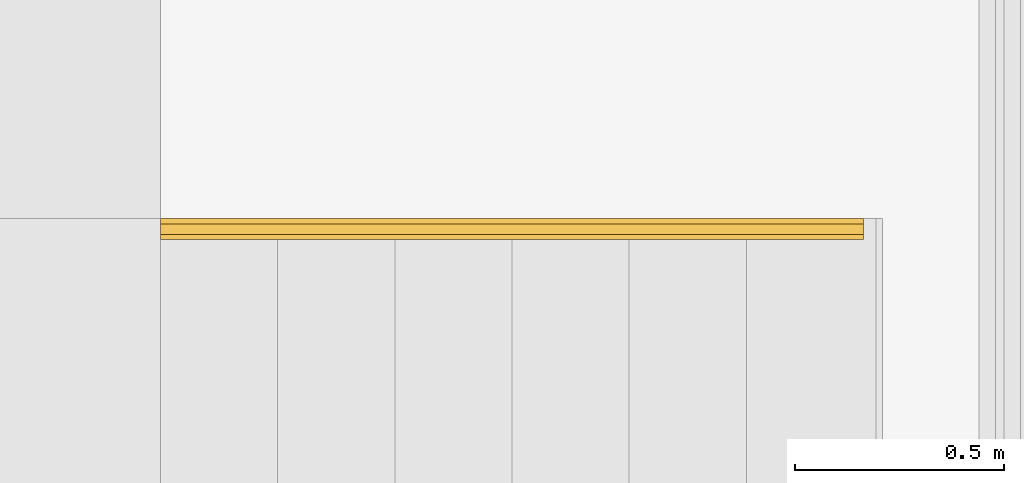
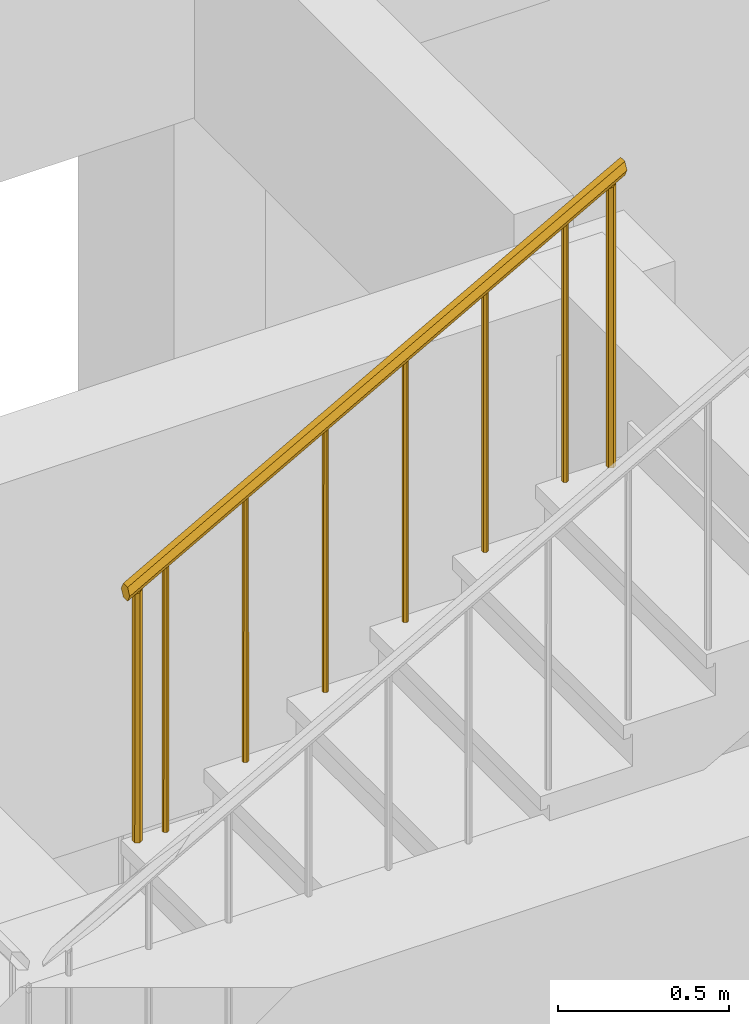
# One storey, part 112 of 117: 1 railing, 1 element without a shape of its own.
"""IFC4 building model written with IfcOpenShell, lengths in metres."""

from ifc_helpers import new_model, entity, si_unit, converted_unit, derived_unit, direction, frame, origin, place, context, subcontext, project, spatial, polygons, material, type_object, element, aggregate, save


model = new_model("IFC4")

# Units and contexts
model_context = context("Model", 3, precision=1e-05, world=origin(), true_north=direction((6.123031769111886e-17, 1.0)))
body_context = subcontext(model_context, "Body", "Model", "MODEL_VIEW")
ifc_project = project(units=[si_unit("LENGTHUNIT", "METRE"), si_unit("AREAUNIT", "SQUARE_METRE"), si_unit("VOLUMEUNIT", "CUBIC_METRE"), converted_unit("PLANEANGLEUNIT", "DEGREE", entity("IfcRatioMeasure", 0.017453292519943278), si_unit("PLANEANGLEUNIT", "RADIAN"), dimensions=[0, 0, 0, 0, 0, 0, 0]), si_unit("MASSUNIT", "GRAM", prefix="KILO"), derived_unit("MASSDENSITYUNIT", [(si_unit("MASSUNIT", "GRAM", prefix="KILO"), 1), (si_unit("LENGTHUNIT", "METRE"), -3)]), derived_unit("MOMENTOFINERTIAUNIT", [(si_unit("LENGTHUNIT", "METRE"), 4)]), si_unit("TIMEUNIT", "SECOND"), si_unit("FREQUENCYUNIT", "HERTZ"), si_unit("THERMODYNAMICTEMPERATUREUNIT", "DEGREE_CELSIUS"), derived_unit("THERMALTRANSMITTANCEUNIT", [(si_unit("MASSUNIT", "GRAM", prefix="KILO"), 1), (si_unit("THERMODYNAMICTEMPERATUREUNIT", "KELVIN"), -1), (si_unit("TIMEUNIT", "SECOND"), -3)]), derived_unit("VOLUMETRICFLOWRATEUNIT", [(si_unit("LENGTHUNIT", "METRE"), 3), (si_unit("TIMEUNIT", "SECOND"), -1)]), derived_unit("MASSFLOWRATEUNIT", [(si_unit("MASSUNIT", "GRAM", prefix="KILO"), 1), (si_unit("TIMEUNIT", "SECOND"), -1)]), derived_unit("ROTATIONALFREQUENCYUNIT", [(si_unit("TIMEUNIT", "SECOND"), -1)]), si_unit("ELECTRICCURRENTUNIT", "AMPERE"), si_unit("ELECTRICVOLTAGEUNIT", "VOLT"), si_unit("POWERUNIT", "WATT"), si_unit("FORCEUNIT", "NEWTON", prefix="KILO"), si_unit("ILLUMINANCEUNIT", "LUX"), si_unit("LUMINOUSFLUXUNIT", "LUMEN"), si_unit("LUMINOUSINTENSITYUNIT", "CANDELA"), derived_unit("USERDEFINED", [(si_unit("MASSUNIT", "GRAM", prefix="KILO"), -1), (si_unit("LENGTHUNIT", "METRE"), -2), (si_unit("TIMEUNIT", "SECOND"), 3), (si_unit("LUMINOUSFLUXUNIT", "LUMEN"), 1)]), derived_unit("SOUNDPOWERUNIT", [(si_unit("MASSUNIT", "GRAM", prefix="KILO"), 1), (si_unit("LENGTHUNIT", "METRE"), 2), (si_unit("TIMEUNIT", "SECOND"), -3)]), derived_unit("SOUNDPRESSUREUNIT", [(si_unit("MASSUNIT", "GRAM", prefix="KILO"), 1), (si_unit("LENGTHUNIT", "METRE"), -1), (si_unit("TIMEUNIT", "SECOND"), -2)]), derived_unit("LINEARVELOCITYUNIT", [(si_unit("LENGTHUNIT", "METRE"), 1), (si_unit("TIMEUNIT", "SECOND"), -1)]), si_unit("PRESSUREUNIT", "PASCAL"), derived_unit("USERDEFINED", [(si_unit("LENGTHUNIT", "METRE"), -2), (si_unit("MASSUNIT", "GRAM", prefix="KILO"), 1), (si_unit("TIMEUNIT", "SECOND"), -2)]), derived_unit("LINEARFORCEUNIT", [(si_unit("MASSUNIT", "GRAM", prefix="KILO"), 1), (si_unit("LENGTHUNIT", "METRE"), 1), (si_unit("TIMEUNIT", "SECOND"), -2), (si_unit("LENGTHUNIT", "METRE"), -1)]), derived_unit("PLANARFORCEUNIT", [(si_unit("MASSUNIT", "GRAM", prefix="KILO"), 1), (si_unit("LENGTHUNIT", "METRE"), 1), (si_unit("TIMEUNIT", "SECOND"), -2), (si_unit("LENGTHUNIT", "METRE"), -2)])], contexts=[model_context])

# Site, building, storey
site_placement = place(None, origin())
site = spatial("IfcSite", under=ifc_project, at=site_placement, Name="Superficie", CompositionType="ELEMENT")
building_placement = place(site_placement, origin())
building = spatial("IfcBuilding", under=site, at=building_placement, CompositionType="ELEMENT")
storey_placement = place(building_placement, origin())
storey = spatial("IfcBuildingStorey", under=building, at=storey_placement, Name="Nivel 0", CompositionType="ELEMENT", Elevation=0.0)

# Stair, railing
stair_type = type_object("IfcStairType", Name="Escalera prefabricada:Escalera prefabricada", PredefinedType="NOTDEFINED")
stair_placement = place(storey_placement, origin())
stair = element("IfcStair", 1, at=stair_placement, inside=storey, type_object=stair_type, Name="Escalera prefabricada:Escalera", ObjectType="Escalera prefabricada:Escalera prefabricada", PredefinedType="NOTDEFINED")
ifc_material = material(Name="Acero", Category="Metal")
railing_placement = place(stair_placement, frame((-5.398998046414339, 11.67883401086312, 3.066666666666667)))
railing = element("IfcRailing", 2, at=railing_placement, material=ifc_material, Name="Barandilla:Barrotes redondos", ObjectType="Barandilla:Barrotes redondos", PredefinedType="NOTDEFINED", context=body_context, shape_type="Tessellation", body=[
    polygons([(1.4850000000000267, 0.01659527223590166, 1.696401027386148), (1.4850000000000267, 0.01659527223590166, 0.7777777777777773), (1.4936602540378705, 0.021595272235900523, 0.7777777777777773), (1.4936602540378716, 0.03159527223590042, 0.7777777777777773), (1.4850000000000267, 0.03659527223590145, 0.7777777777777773), (1.4850000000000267, 0.03659527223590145, 1.696401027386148), (1.4932298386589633, 0.032275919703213, 1.7009731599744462), (1.4932298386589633, 0.0209146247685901, 1.7009731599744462), (1.476339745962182, 0.03159527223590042, 0.7777777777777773), (1.4763397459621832, 0.021595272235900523, 0.7777777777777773), (1.4767701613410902, 0.0209146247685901, 1.6918288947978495), (1.4767701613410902, 0.032275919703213, 1.6918288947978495)], [[[7, 4, 5]], [[5, 6, 7]], [[7, 8, 3, 4]], [[8, 2, 3]], [[2, 8, 1]], [[11, 10, 2]], [[2, 1, 11]], [[11, 12, 9, 10]], [[12, 5, 9]], [[5, 12, 6]], [[11, 1, 8, 7, 6, 12]], [[3, 2, 10, 9, 5, 4]]], closed=True),
    polygons([(1.2150000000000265, 0.016595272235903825, 1.5464010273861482), (1.2150000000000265, 0.016595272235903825, 0.6222222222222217), (1.2236602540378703, 0.021595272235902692, 0.6222222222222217), (1.2236602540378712, 0.03159527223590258, 0.6222222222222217), (1.2150000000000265, 0.036595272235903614, 0.6222222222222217), (1.2150000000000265, 0.036595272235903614, 1.5464010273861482), (1.223229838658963, 0.032275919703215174, 1.5509731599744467), (1.223229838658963, 0.02091462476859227, 1.5509731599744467), (1.2063397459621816, 0.03159527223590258, 0.6222222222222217), (1.2063397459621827, 0.021595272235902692, 0.6222222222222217), (1.20677016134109, 0.02091462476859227, 1.54182889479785), (1.20677016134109, 0.032275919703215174, 1.54182889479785)], [[[7, 4, 5]], [[5, 6, 7]], [[7, 8, 3, 4]], [[8, 2, 3]], [[2, 8, 1]], [[11, 10, 2]], [[2, 1, 11]], [[11, 12, 9, 10]], [[12, 5, 9]], [[5, 12, 6]], [[11, 1, 8, 7, 6, 12]], [[3, 2, 10, 9, 5, 4]]], closed=True),
    polygons([(0.9450000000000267, 0.016595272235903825, 1.396401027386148), (0.9450000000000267, 0.016595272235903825, 0.4666666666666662), (0.9536602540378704, 0.021595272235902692, 0.4666666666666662), (0.9536602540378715, 0.03159527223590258, 0.4666666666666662), (0.9450000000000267, 0.036595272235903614, 0.4666666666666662), (0.9450000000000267, 0.036595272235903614, 1.396401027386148), (0.9532298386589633, 0.032275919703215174, 1.4009731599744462), (0.9532298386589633, 0.02091462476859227, 1.4009731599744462), (0.9363397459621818, 0.03159527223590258, 0.4666666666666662), (0.936339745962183, 0.021595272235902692, 0.4666666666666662), (0.93677016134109, 0.02091462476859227, 1.3918288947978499), (0.93677016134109, 0.032275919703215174, 1.3918288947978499)], [[[7, 4, 5]], [[5, 6, 7]], [[7, 8, 3, 4]], [[8, 2, 3]], [[2, 8, 1]], [[11, 10, 2]], [[2, 1, 11]], [[11, 12, 9, 10]], [[12, 5, 9]], [[5, 12, 6]], [[11, 1, 8, 7, 6, 12]], [[3, 2, 10, 9, 5, 4]]], closed=True),
    polygons([(0.6750000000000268, 0.016595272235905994, 1.2464010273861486), (0.6750000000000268, 0.016595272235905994, 0.3111111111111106), (0.6836602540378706, 0.021595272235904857, 0.3111111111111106), (0.6836602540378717, 0.03159527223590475, 0.3111111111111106), (0.6750000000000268, 0.03659527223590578, 0.3111111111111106), (0.6750000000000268, 0.03659527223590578, 1.2464010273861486), (0.6832298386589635, 0.03227591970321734, 1.2509731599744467), (0.6832298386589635, 0.020914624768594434, 1.2509731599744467), (0.666339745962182, 0.03159527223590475, 0.3111111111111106), (0.6663397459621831, 0.021595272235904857, 0.3111111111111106), (0.6667701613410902, 0.020914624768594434, 1.2418288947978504), (0.6667701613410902, 0.03227591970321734, 1.2418288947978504)], [[[7, 4, 5]], [[5, 6, 7]], [[7, 8, 3, 4]], [[8, 2, 3]], [[2, 8, 1]], [[11, 10, 2]], [[2, 1, 11]], [[11, 12, 9, 10]], [[12, 5, 9]], [[5, 12, 6]], [[11, 1, 8, 7, 6, 12]], [[3, 2, 10, 9, 5, 4]]], closed=True),
    polygons([(0.40500000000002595, 0.016595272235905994, 1.0964010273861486), (0.40500000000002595, 0.016595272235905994, 0.15555555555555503), (0.4136602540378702, 0.021595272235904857, 0.15555555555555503), (0.4136602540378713, 0.03159527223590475, 0.15555555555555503), (0.40500000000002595, 0.03659527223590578, 0.15555555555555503), (0.40500000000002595, 0.03659527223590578, 1.0964010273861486), (0.41322983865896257, 0.03227591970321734, 1.1009731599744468), (0.41322983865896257, 0.020914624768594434, 1.1009731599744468), (0.39633974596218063, 0.03159527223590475, 0.15555555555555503), (0.39633974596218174, 0.021595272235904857, 0.15555555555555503), (0.3967701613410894, 0.020914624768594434, 1.091828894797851), (0.3967701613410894, 0.03227591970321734, 1.091828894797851)], [[[7, 4, 5]], [[5, 6, 7]], [[7, 8, 3, 4]], [[8, 2, 3]], [[2, 8, 1]], [[11, 10, 2]], [[2, 1, 11]], [[11, 12, 9, 10]], [[12, 5, 9]], [[5, 12, 6]], [[11, 1, 8, 7, 6, 12]], [[3, 2, 10, 9, 5, 4]]], closed=True),
    polygons([(0.13500000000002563, 0.01659527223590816, 0.9464010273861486), (0.13500000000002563, 0.01659527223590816, 0.0), (0.14366025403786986, 0.021595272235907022, 0.0), (0.14366025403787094, 0.03159527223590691, 0.0), (0.13500000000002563, 0.036595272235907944, 0.0), (0.13500000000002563, 0.036595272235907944, 0.9464010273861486), (0.14322983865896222, 0.032275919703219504, 0.9509731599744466), (0.14322983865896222, 0.0209146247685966, 0.9509731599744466), (0.12633974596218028, 0.03159527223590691, 0.0), (0.12633974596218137, 0.021595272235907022, 0.0), (0.12677016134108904, 0.0209146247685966, 0.941828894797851), (0.12677016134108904, 0.032275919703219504, 0.941828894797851)], [[[7, 4, 5]], [[5, 6, 7]], [[7, 8, 3, 4]], [[8, 2, 3]], [[2, 8, 1]], [[11, 10, 2]], [[2, 1, 11]], [[11, 12, 9, 10]], [[12, 5, 9]], [[5, 12, 6]], [[11, 1, 8, 7, 6, 12]], [[3, 2, 10, 9, 5, 4]]], closed=True),
    polygons([(1.6400000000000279, 0.011595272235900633, 1.7825121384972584), (1.6400000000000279, 0.011595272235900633, 0.7777777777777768), (1.6529903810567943, 0.019095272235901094, 0.7777777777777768), (1.6529903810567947, 0.03409527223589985, 0.7777777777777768), (1.6400000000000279, 0.041595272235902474, 0.7777777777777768), (1.6400000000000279, 0.041595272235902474, 1.7825121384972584), (1.6523447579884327, 0.03511624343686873, 1.7893703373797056), (1.6523447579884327, 0.018074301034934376, 1.7893703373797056), (1.6529903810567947, 0.026595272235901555, 0.7777777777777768), (1.6523447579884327, 0.026595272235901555, 1.7893703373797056), (1.6523447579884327, 0.030855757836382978, 1.789370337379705), (1.6464951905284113, 0.03784527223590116, 0.7777777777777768), (1.6461723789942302, 0.038355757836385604, 1.785941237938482), (1.6423802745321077, 0.04034600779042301, 1.7838345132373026), (1.6464951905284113, 0.015345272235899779, 0.7777777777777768), (1.6461723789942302, 0.014834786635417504, 1.785941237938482), (1.6492585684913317, 0.01645454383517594, 1.787655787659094), (1.6523447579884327, 0.022334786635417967, 1.7893703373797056), (1.6529903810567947, 0.02284527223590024, 0.7777777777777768), (1.6423802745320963, 0.012844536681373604, 1.7838345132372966), (1.6432475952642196, 0.013470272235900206, 0.7777777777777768), (1.6492585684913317, 0.036736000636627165, 1.7876557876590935), (1.6497427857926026, 0.03597027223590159, 0.7777777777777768), (1.6529903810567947, 0.0303452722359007, 0.7777777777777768), (1.6432475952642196, 0.03972027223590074, 0.7777777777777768), (1.6497427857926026, 0.01722027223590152, 0.7777777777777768), (1.627009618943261, 0.03409527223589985, 0.7777777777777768), (1.6270096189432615, 0.019095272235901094, 0.7777777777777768), (1.627655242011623, 0.018074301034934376, 1.7756539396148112), (1.627655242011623, 0.03511624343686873, 1.7756539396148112), (1.627009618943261, 0.026595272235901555, 0.7777777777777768), (1.627655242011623, 0.026595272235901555, 1.7756539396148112), (1.627655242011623, 0.022334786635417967, 1.7756539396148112), (1.6335048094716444, 0.015345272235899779, 0.7777777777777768), (1.6338276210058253, 0.014834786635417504, 1.7790830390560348), (1.6375999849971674, 0.012854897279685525, 1.7811787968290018), (1.6335048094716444, 0.03784527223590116, 0.7777777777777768), (1.6338276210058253, 0.038355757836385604, 1.7790830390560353), (1.6307414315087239, 0.03673600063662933, 1.7773684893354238), (1.627655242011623, 0.030855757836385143, 1.7756539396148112), (1.627009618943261, 0.0303452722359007, 0.7777777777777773), (1.637599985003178, 0.04033564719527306, 1.7811787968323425), (1.6367524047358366, 0.03972027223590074, 0.7777777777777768), (1.6302572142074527, 0.01722027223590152, 0.7777777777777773), (1.6307414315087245, 0.01645454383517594, 1.7773684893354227), (1.6270096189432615, 0.022845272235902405, 0.7777777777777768), (1.6367524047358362, 0.013470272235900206, 0.7777777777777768), (1.6302572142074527, 0.03597027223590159, 0.7777777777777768)], [[[25, 13, 12]], [[18, 8, 3, 19, 9, 24, 4, 7, 11, 10]], [[25, 14, 13]], [[4, 23, 7]], [[21, 15, 16]], [[14, 5, 6]], [[17, 26, 8]], [[20, 2, 21]], [[23, 12, 22]], [[17, 16, 15]], [[20, 1, 2]], [[20, 21, 16]], [[22, 7, 23]], [[12, 13, 22]], [[25, 5, 14]], [[3, 8, 26]], [[17, 15, 26]], [[47, 35, 34]], [[29, 33, 32, 40, 30, 27, 41, 31, 46, 28]], [[45, 29, 44]], [[42, 5, 43]], [[43, 37, 38]], [[47, 36, 35]], [[36, 2, 1]], [[39, 48, 30]], [[35, 45, 34]], [[39, 38, 37]], [[42, 6, 5]], [[42, 43, 38]], [[44, 34, 45]], [[29, 28, 44]], [[47, 2, 36]], [[27, 30, 48]], [[39, 37, 48]], [[1, 20, 16, 17, 8, 18, 10, 11, 7, 22, 13, 14, 6, 42, 38, 39, 30, 40, 32, 33, 29, 45, 35, 36]], [[5, 25, 12, 23, 4, 24, 9, 19, 3, 26, 15, 21, 2, 47, 34, 44, 28, 46, 31, 41, 27, 48, 37, 43]]], closed=True),
    polygons([(0.04000000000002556, 0.011595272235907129, 0.8936232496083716), (0.04000000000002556, 0.011595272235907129, 0.0), (0.05299038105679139, 0.01909527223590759, 0.0), (0.05299038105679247, 0.034095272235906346, 0.0), (0.04000000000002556, 0.041595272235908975, 0.0), (0.04000000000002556, 0.041595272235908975, 0.8936232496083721), (0.05234475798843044, 0.03511624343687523, 0.9004814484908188), (0.05234475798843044, 0.018074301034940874, 0.9004814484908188), (0.05299038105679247, 0.026595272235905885, 0.0), (0.05234475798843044, 0.02659527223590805, 0.9004814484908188), (0.05234475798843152, 0.03085575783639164, 0.9004814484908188), (0.04649519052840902, 0.03784527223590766, 0.0), (0.04617237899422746, 0.0383557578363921, 0.8970523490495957), (0.042673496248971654, 0.04019211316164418, 0.8951085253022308), (0.04649519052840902, 0.015345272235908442, 0.0), (0.04617237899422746, 0.014834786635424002, 0.8970523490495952), (0.04925856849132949, 0.01645454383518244, 0.8987668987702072), (0.05234475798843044, 0.022334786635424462, 0.9004814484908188), (0.05299038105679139, 0.02284527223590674, 0.0), (0.04267349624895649, 0.012998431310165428, 0.8951085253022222), (0.04324759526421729, 0.013470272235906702, 0.0), (0.04925856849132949, 0.03673600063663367, 0.8987668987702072), (0.04974278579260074, 0.03597027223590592, 0.0), (0.05299038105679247, 0.0303452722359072, 0.0), (0.04324759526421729, 0.03972027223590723, 0.0), (0.04974278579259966, 0.017220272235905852, 0.0), (0.027009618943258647, 0.034095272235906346, 0.0), (0.02700961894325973, 0.01909527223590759, 0.0), (0.02765524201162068, 0.018074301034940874, 0.8867650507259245), (0.02765524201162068, 0.03511624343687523, 0.8867650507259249), (0.027009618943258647, 0.026595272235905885, 0.0), (0.02765524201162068, 0.02659527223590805, 0.8867650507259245), (0.02765524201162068, 0.022334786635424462, 0.8867650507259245), (0.033504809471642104, 0.015345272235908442, 0.0), (0.03382762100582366, 0.014834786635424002, 0.890194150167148), (0.03730157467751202, 0.013011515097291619, 0.8921241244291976), (0.033504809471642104, 0.03784527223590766, 0.0), (0.03382762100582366, 0.0383557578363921, 0.8901941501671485), (0.030741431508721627, 0.03673600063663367, 0.8884796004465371), (0.02765524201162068, 0.03085575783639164, 0.8867650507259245), (0.027009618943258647, 0.0303452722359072, 0.0), (0.037301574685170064, 0.04017902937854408, 0.8921241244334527), (0.036752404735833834, 0.03972027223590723, 0.0), (0.030257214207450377, 0.017220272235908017, 0.0), (0.030741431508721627, 0.01645454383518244, 0.888479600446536), (0.027009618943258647, 0.02284527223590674, 0.0), (0.036752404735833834, 0.013470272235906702, 0.0), (0.030257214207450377, 0.03597027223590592, 0.0)], [[[25, 13, 12]], [[18, 8, 3, 19, 9, 24, 4, 7, 11, 10]], [[25, 14, 13]], [[4, 23, 7]], [[21, 15, 16]], [[14, 5, 6]], [[17, 26, 8]], [[20, 2, 21]], [[23, 12, 22]], [[17, 16, 15]], [[20, 1, 2]], [[20, 21, 16]], [[22, 7, 23]], [[12, 13, 22]], [[25, 5, 14]], [[3, 8, 26]], [[17, 15, 26]], [[47, 35, 34]], [[29, 33, 32, 40, 30, 27, 41, 31, 46, 28]], [[45, 29, 44]], [[42, 5, 43]], [[43, 37, 38]], [[47, 36, 35]], [[36, 2, 1]], [[39, 48, 30]], [[35, 45, 34]], [[39, 38, 37]], [[42, 6, 5]], [[42, 43, 38]], [[44, 34, 45]], [[29, 28, 44]], [[47, 2, 36]], [[27, 30, 48]], [[39, 37, 48]], [[1, 20, 16, 17, 8, 18, 10, 11, 7, 22, 13, 14, 6, 42, 38, 39, 30, 40, 32, 33, 29, 45, 35, 36]], [[5, 25, 12, 23, 4, 24, 9, 19, 3, 26, 15, 21, 2, 47, 34, 44, 28, 46, 31, 41, 27, 48, 37, 43]]], closed=True),
    polygons([(0.0, 0.0015952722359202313, 0.9000000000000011), (0.0, 0.01409527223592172, 0.9247674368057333), (0.0, 0.03909527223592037, 0.9247674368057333), (0.0, 0.05159527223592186, 0.9000000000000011), (0.0, 0.03909527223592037, 0.875232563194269), (0.0, 0.01409527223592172, 0.875232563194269), (1.6800000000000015, 0.001595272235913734, 1.8333333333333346), (1.6800000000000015, 0.014095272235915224, 1.808565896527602), (1.6800000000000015, 0.03909527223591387, 1.808565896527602), (1.6800000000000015, 0.05159527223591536, 1.8333333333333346), (1.6800000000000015, 0.03909527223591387, 1.8581007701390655), (1.6800000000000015, 0.014095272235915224, 1.8581007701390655), (0.0, 0.00760795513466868, 0.9119134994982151), (1.6800000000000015, 0.00784527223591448, 1.8457170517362), (1.6800000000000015, 0.010970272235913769, 1.8519089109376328), (0.0, 0.026595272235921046, 0.9247674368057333), (1.6800000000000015, 0.026595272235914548, 1.8581007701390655), (1.6800000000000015, 0.032845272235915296, 1.8581007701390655), (1.6800000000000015, 0.04534527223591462, 1.8457170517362), (0.0, 0.045345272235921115, 0.9123837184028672), (0.0, 0.04222027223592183, 0.9185755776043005), (0.0, 0.0203452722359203, 0.9247674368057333), (1.6800000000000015, 0.02034527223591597, 1.8581007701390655), (0.0, 0.048588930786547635, 0.9059567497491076), (1.6800000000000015, 0.04847027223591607, 1.8395251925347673), (0.0, 0.004601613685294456, 0.9059567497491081), (1.6800000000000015, 0.004720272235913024, 1.8395251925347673), (0.0, 0.010851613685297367, 0.9183404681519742), (0.0, 0.03284527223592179, 0.9247674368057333), (1.6800000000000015, 0.042220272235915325, 1.8519089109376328), (1.6800000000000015, 0.04558258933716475, 1.8214198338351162), (0.0, 0.045345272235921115, 0.8876162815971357), (0.0, 0.04847027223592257, 0.8938081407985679), (0.0, 0.026595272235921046, 0.875232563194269), (1.6800000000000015, 0.026595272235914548, 1.8085658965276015), (1.6800000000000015, 0.02034527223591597, 1.8085658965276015), (0.0, 0.007845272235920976, 0.8876162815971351), (1.6800000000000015, 0.00784527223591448, 1.820949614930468), (1.6800000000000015, 0.004601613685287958, 1.8273765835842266), (0.0, 0.04222027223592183, 0.8814244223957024), (1.6800000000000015, 0.04233893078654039, 1.814992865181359), (0.0, 0.03284527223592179, 0.875232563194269), (1.6800000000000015, 0.032845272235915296, 1.808565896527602), (0.0, 0.010970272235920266, 0.8814244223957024), (1.6800000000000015, 0.010970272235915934, 1.8147577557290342), (1.6800000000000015, 0.048588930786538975, 1.8273765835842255), (0.0, 0.020345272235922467, 0.875232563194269), (0.0, 0.004720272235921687, 0.8938081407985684)], [[[4, 33, 32, 40, 5, 42, 34, 47, 6, 44, 37, 48, 1, 26, 13, 28, 2, 22, 16, 29, 3, 21, 20, 24]], [[10, 25, 19, 30, 11, 18, 17, 23, 12, 15, 14, 27, 7, 39, 38, 45, 8, 36, 35, 43, 9, 41, 31, 46]], [[13, 26, 1, 7, 27, 14, 15, 12, 2, 28]], [[20, 21, 3, 11, 30, 19, 25, 10, 4, 24]], [[16, 22, 2, 12, 23, 17, 18, 11, 3, 29]], [[32, 33, 4, 10, 46, 31, 41, 9, 5, 40]], [[36, 8, 6, 47, 34, 42, 5, 9, 43, 35]], [[39, 7, 1, 48, 37, 44, 6, 8, 45, 38]]], closed=True),
])
aggregate(stair, [railing])

save(model, "model.ifc")
